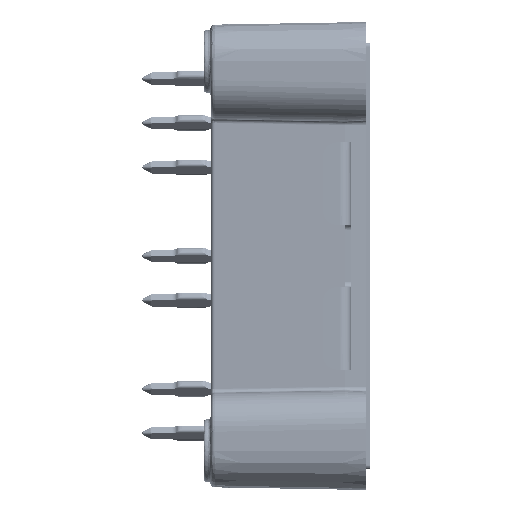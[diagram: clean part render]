
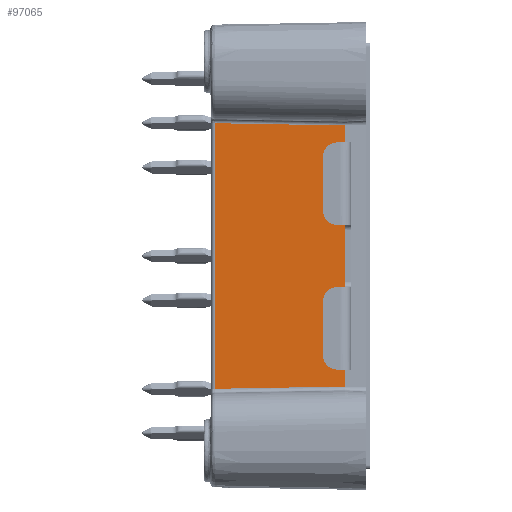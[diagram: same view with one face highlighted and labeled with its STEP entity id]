
A CAD part, left-side view. The second image highlights one B-rep face of the part: STEP entity #97065.
In plain terms, the highlighted planar face has unit normal (-1, 0.018, 0).
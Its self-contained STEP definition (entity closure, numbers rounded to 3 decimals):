
#1927 = CARTESIAN_POINT ( 'NONE',  ( 33.257, -5.274, 2.728 ) ) ;
#3635 = CARTESIAN_POINT ( 'NONE',  ( 33.422, 4.162, 1.228 ) ) ;
#4276 = ORIENTED_EDGE ( 'NONE', *, *, #127404, .T. ) ;
#4576 = CARTESIAN_POINT ( 'NONE',  ( 33.422, 4.162, 20.518 ) ) ;
#5999 = DIRECTION ( 'NONE',  ( -0.017, -1., 0.017 ) ) ;
#6742 = VERTEX_POINT ( 'NONE', #1927 ) ;
#8433 = ORIENTED_EDGE ( 'NONE', *, *, #51180, .T. ) ;
#14892 = CARTESIAN_POINT ( 'NONE',  ( 33.257, -5.274, 19.945 ) ) ;
#15703 = CARTESIAN_POINT ( 'NONE',  ( 33.257, -5.274, 1.228 ) ) ;
#20849 = EDGE_LOOP ( 'NONE', ( #65895, #4276, #8433, #72590, #81483, #82489 ) ) ;
#23541 = VERTEX_POINT ( 'NONE', #92667 ) ;
#24837 = CARTESIAN_POINT ( 'NONE',  ( 33.257, -5.274, 19.536 ) ) ;
#25936 = LINE ( 'NONE', #106083, #98312 ) ;
#26845 = LINE ( 'NONE', #3635, #40151 ) ;
#27967 = DIRECTION ( 'NONE',  ( 0., 0., 1. ) ) ;
#31044 = LINE ( 'NONE', #15703, #101410 ) ;
#35464 = CARTESIAN_POINT ( 'NONE',  ( 33.257, -5.274, 1.502 ) ) ;
#40151 = VECTOR ( 'NONE', #57306, 1000. ) ;
#44067 = CARTESIAN_POINT ( 'NONE',  ( 33.257, -5.274, 1.91 ) ) ;
#50635 = VERTEX_POINT ( 'NONE', #4576 ) ;
#50779 = DIRECTION ( 'NONE',  ( 0.017, 1., 0.017 ) ) ;
#51180 = EDGE_CURVE ( 'NONE', #90251, #23541, #81492, .T. ) ;
#51540 = VERTEX_POINT ( 'NONE', #65762 ) ;
#54780 = DIRECTION ( 'NONE',  ( 0., 0., 1. ) ) ;
#56423 = PLANE ( 'NONE',  #88641 ) ;
#57306 = DIRECTION ( 'NONE',  ( 0., 0., 1. ) ) ;
#58444 = CARTESIAN_POINT ( 'NONE',  ( 33.257, -5.274, 19.128 ) ) ;
#65762 = CARTESIAN_POINT ( 'NONE',  ( 33.422, 4.162, 1.337 ) ) ;
#65895 = ORIENTED_EDGE ( 'NONE', *, *, #128493, .T. ) ;
#72590 = ORIENTED_EDGE ( 'NONE', *, *, #87650, .T. ) ;
#76652 = EDGE_CURVE ( 'NONE', #51540, #83927, #25936, .T. ) ;
#77009 = FACE_OUTER_BOUND ( 'NONE', #20849, .T. ) ;
#77147 = CARTESIAN_POINT ( 'NONE',  ( 33.257, -5.274, 20.353 ) ) ;
#79960 = CARTESIAN_POINT ( 'NONE',  ( 33.226, -7.077, 20.322 ) ) ;
#81483 = ORIENTED_EDGE ( 'NONE', *, *, #129401, .F. ) ;
#81492 = B_SPLINE_CURVE_WITH_KNOTS ( 'NONE', 3,
 ( #117530, #24837, #14892, #77147 ),
 .UNSPECIFIED., .F., .F.,
 ( 4, 4 ),
 ( 0., 1. ),
 .UNSPECIFIED. ) ;
#82489 = ORIENTED_EDGE ( 'NONE', *, *, #76652, .T. ) ;
#83927 = VERTEX_POINT ( 'NONE', #101750 ) ;
#86469 = CARTESIAN_POINT ( 'NONE',  ( 33.257, -5.274, 2.728 ) ) ;
#86674 = VECTOR ( 'NONE', #50779, 1000. ) ;
#87650 = EDGE_CURVE ( 'NONE', #23541, #50635, #130315, .T. ) ;
#88257 = CARTESIAN_POINT ( 'NONE',  ( 33.232, -6.744, 1.228 ) ) ;
#88641 = AXIS2_PLACEMENT_3D ( 'NONE', #88257, #106791, #27967 ) ;
#90251 = VERTEX_POINT ( 'NONE', #58444 ) ;
#92667 = CARTESIAN_POINT ( 'NONE',  ( 33.257, -5.274, 20.353 ) ) ;
#97065 = ADVANCED_FACE ( 'NONE', ( #77009 ), #56423, .T. ) ;
#98312 = VECTOR ( 'NONE', #5999, 1000. ) ;
#101410 = VECTOR ( 'NONE', #54780, 1000. ) ;
#101750 = CARTESIAN_POINT ( 'NONE',  ( 33.257, -5.274, 1.502 ) ) ;
#106083 = CARTESIAN_POINT ( 'NONE',  ( 33.231, -6.799, 1.528 ) ) ;
#106791 = DIRECTION ( 'NONE',  ( -1., 0.017, 0. ) ) ;
#116240 = CARTESIAN_POINT ( 'NONE',  ( 33.257, -5.274, 2.319 ) ) ;
#117530 = CARTESIAN_POINT ( 'NONE',  ( 33.257, -5.274, 19.128 ) ) ;
#127068 = B_SPLINE_CURVE_WITH_KNOTS ( 'NONE', 3,
 ( #35464, #44067, #116240, #86469 ),
 .UNSPECIFIED., .F., .F.,
 ( 4, 4 ),
 ( 0., 1. ),
 .UNSPECIFIED. ) ;
#127404 = EDGE_CURVE ( 'NONE', #6742, #90251, #31044, .T. ) ;
#128493 = EDGE_CURVE ( 'NONE', #83927, #6742, #127068, .T. ) ;
#129401 = EDGE_CURVE ( 'NONE', #51540, #50635, #26845, .T. ) ;
#130315 = LINE ( 'NONE', #79960, #86674 ) ;
